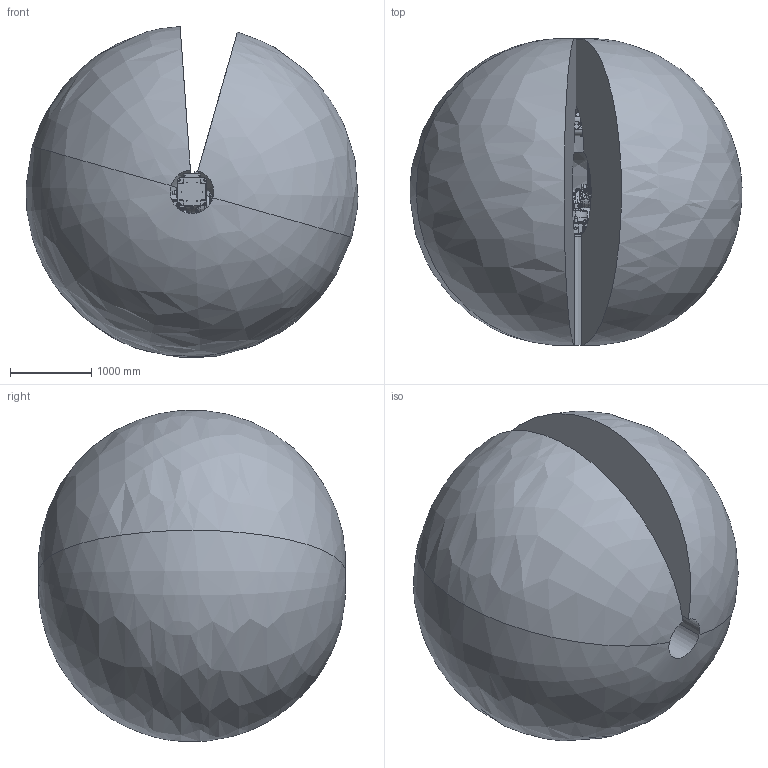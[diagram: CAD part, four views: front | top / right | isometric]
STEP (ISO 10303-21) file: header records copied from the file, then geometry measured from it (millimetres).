
FILE_DESCRIPTION (( 'STEP AP214' ), '1' );
FILE_NAME ('ER12-2100 机器人数模V1.0.STEP', '2023-09-18T07:14:56', ( '' ), ( '' ), 'SwSTEP 2.0', 'SolidWorks 2021', '' );
FILE_SCHEMA (( 'AUTOMOTIVE_DESIGN' ));
Length unit declared in the file: millimetre
Products named in the file (9): 运动空间^ER12-2100 机器人数模V1.0; 转座^ER12-2100 机器人数模V1.0; 小臂^ER12-2100 机器人数模V1.0; 手腕^ER12-2100 机器人数模V1.0; 底座^ER12-2100 机器人数模V1.0; 大臂^ER12-2100 机器人数模V1.0; ER12-2100 机器人数模V1.0; 末端法兰^ER12-2100 机器人数模V1.0; 电机座^ER12-2100 机器人数模V1.0
Assembly tree (8 placements, depth 2):
  ER12-2100 机器人数模V1.0
    底座^ER12-2100 机器人数模V1.0
    转座^ER12-2100 机器人数模V1.0
    大臂^ER12-2100 机器人数模V1.0
    电机座^ER12-2100 机器人数模V1.0
    小臂^ER12-2100 机器人数模V1.0
    手腕^ER12-2100 机器人数模V1.0
    末端法兰^ER12-2100 机器人数模V1.0
    运动空间^ER12-2100 机器人数模V1.0
Bounding box: 4097.96 x 3788.59 x 4086.04 mm (x, y, z)
Volume: 31174076197.3 mm3; surface area: 69384693.7 mm2
Topology: 8 solids, 8 shells, 4553 faces, 10928 edges, 6428 vertices
Faces by surface type: bspline 1445, cylinder 1423, plane 945, torus 515, cone 154, sphere 71
Entity records: 289157 total; most frequent: CARTESIAN_POINT 179876, ORIENTED_EDGE 21424, DIRECTION 16705, EDGE_CURVE 10712, AXIS2_PLACEMENT_3D 7149, VERTEX_POINT 6428, EDGE_LOOP 4844, FACE_OUTER_BOUND 4553
